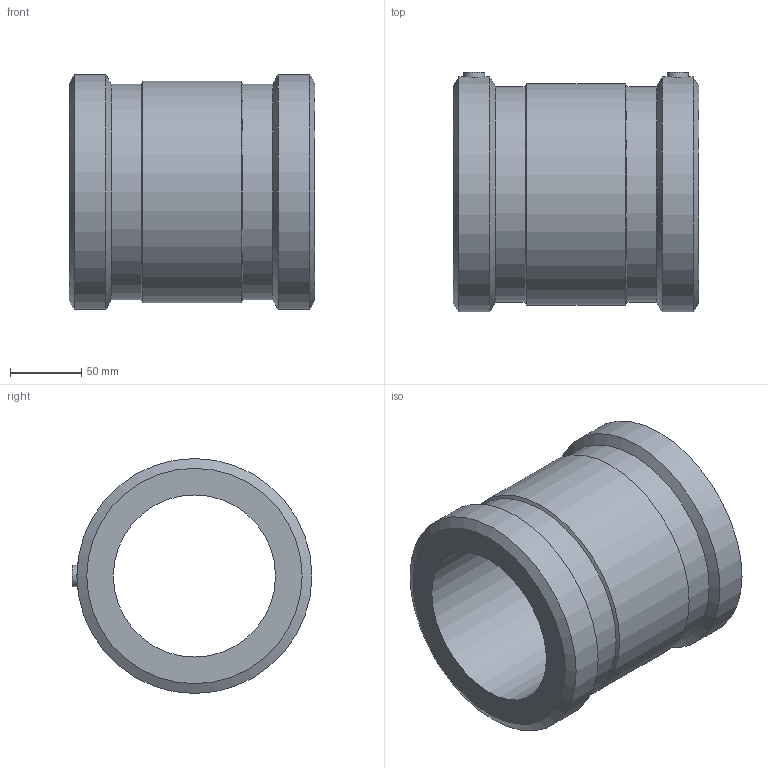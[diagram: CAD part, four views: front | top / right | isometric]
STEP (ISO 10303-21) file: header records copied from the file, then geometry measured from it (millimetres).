
FILE_DESCRIPTION(/* description */ ('PLASSON COUPLER 4''''DIPS'),/* implementation_level */ '2;1');
FILE_NAME(/* name */ 'C:\Dropbox\KIMPROJECTS-Inventor 2019\99-16-3568-Processing Inch\ASTM ElectroFusion 2021\5901D\5901D004040.ipt.stp',/* time_stamp */ '2021-08-30T09:49:03+03:00',/* author */ ('KIM'),/* organization */ (''),/* preprocessor_version */ 'ST-DEVELOPER v17.2',/* originating_system */ 'Autodesk Inventor 2019',/* authorisation */ '');
FILE_SCHEMA (('AUTOMOTIVE_DESIGN { 1 0 10303 214 3 1 1 }'));
Length unit declared in the file: inch
Products named in the file (1): 5901D004040
Bounding box: 172.97 x 168.77 x 165.32 mm (x, y, z)
Volume: 1602396.2 mm3; surface area: 173911.1 mm2
Topology: 1 solids, 1 shells, 28 faces, 66 edges, 46 vertices
Faces by surface type: cylinder 12, plane 8, cone 6, bspline 2
Full cylindrical faces by diameter (mm): 4 x2, 10 x2, 15 x2, 114.1 x1, 151.547 x2, 155.956 x1, 165.324 x2
Entity records: 1250 total; most frequent: CARTESIAN_POINT 536, DIRECTION 146, ORIENTED_EDGE 132, EDGE_CURVE 66, AXIS2_PLACEMENT_3D 63, VERTEX_POINT 46, CIRCLE 36, EDGE_LOOP 36
